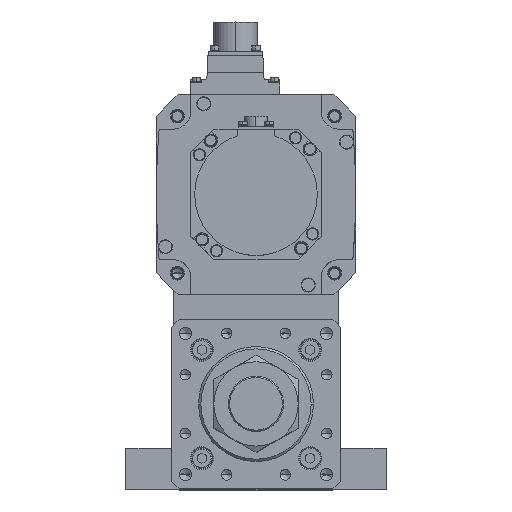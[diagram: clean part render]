
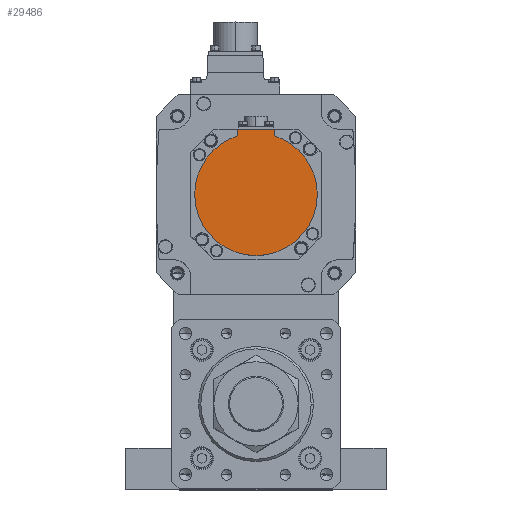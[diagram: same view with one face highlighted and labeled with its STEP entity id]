
A CAD part, top view. The second image highlights one B-rep face of the part: STEP entity #29486.
In plain terms, the highlighted planar face has unit normal (0, 0, 1) as drawn and (0, 0, -1) by its records, which use the part's own axes.
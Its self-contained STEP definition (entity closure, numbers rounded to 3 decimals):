
#117 = CARTESIAN_POINT ( 'NONE',  ( 0., 0., -132.5 ) ) ;
#239 = ORIENTED_EDGE ( 'NONE', *, *, #14979, .F. ) ;
#685 = DIRECTION ( 'NONE',  ( -1., 0., 0. ) ) ;
#1240 = LINE ( 'NONE', #1380, #28594 ) ;
#1380 = CARTESIAN_POINT ( 'NONE',  ( -12., -40.329, -132.5 ) ) ;
#1399 = AXIS2_PLACEMENT_3D ( 'NONE', #15248, #34341, #26289 ) ;
#4048 = CARTESIAN_POINT ( 'NONE',  ( -40., 0., -132.5 ) ) ;
#5975 = DIRECTION ( 'NONE',  ( 1., 0., 0. ) ) ;
#6479 = VECTOR ( 'NONE', #16695, 1000. ) ;
#8049 = EDGE_CURVE ( 'NONE', #21034, #12769, #12582, .T. ) ;
#8347 = LINE ( 'NONE', #22419, #31866 ) ;
#10593 = AXIS2_PLACEMENT_3D ( 'NONE', #18858, #13253, #21707 ) ;
#11252 = DIRECTION ( 'NONE',  ( 0., 0., 1. ) ) ;
#11285 = EDGE_CURVE ( 'NONE', #30338, #12769, #1240, .T. ) ;
#12094 = VERTEX_POINT ( 'NONE', #21631 ) ;
#12330 = FACE_OUTER_BOUND ( 'NONE', #27333, .T. ) ;
#12582 = CIRCLE ( 'NONE', #22506, 40. ) ;
#12769 = VERTEX_POINT ( 'NONE', #16681 ) ;
#13253 = DIRECTION ( 'NONE',  ( 0., 0., 1. ) ) ;
#13324 = AXIS2_PLACEMENT_3D ( 'NONE', #117, #29887, #13542 ) ;
#13542 = DIRECTION ( 'NONE',  ( 1., 0., 0. ) ) ;
#13660 = EDGE_CURVE ( 'NONE', #16560, #30338, #8347, .T. ) ;
#14979 = EDGE_CURVE ( 'NONE', #12094, #21034, #25227, .T. ) ;
#15248 = CARTESIAN_POINT ( 'NONE',  ( 0., -1.249, -132.5 ) ) ;
#16560 = VERTEX_POINT ( 'NONE', #34480 ) ;
#16681 = CARTESIAN_POINT ( 'NONE',  ( -12., -38.158, -132.5 ) ) ;
#16695 = DIRECTION ( 'NONE',  ( 0., 1., 0. ) ) ;
#16825 = CARTESIAN_POINT ( 'NONE',  ( 12., -38.158, -132.5 ) ) ;
#17003 = CIRCLE ( 'NONE', #10593, 40. ) ;
#18858 = CARTESIAN_POINT ( 'NONE',  ( 0., 0., -132.5 ) ) ;
#18910 = CARTESIAN_POINT ( 'NONE',  ( 0., 0., -132.5 ) ) ;
#21034 = VERTEX_POINT ( 'NONE', #4048 ) ;
#21631 = CARTESIAN_POINT ( 'NONE',  ( 40., 0., -132.5 ) ) ;
#21707 = DIRECTION ( 'NONE',  ( 1., 0., 0. ) ) ;
#21929 = CARTESIAN_POINT ( 'NONE',  ( -12., -42.5, -132.5 ) ) ;
#22173 = ORIENTED_EDGE ( 'NONE', *, *, #8049, .F. ) ;
#22419 = CARTESIAN_POINT ( 'NONE',  ( 0., -42.5, -132.5 ) ) ;
#22506 = AXIS2_PLACEMENT_3D ( 'NONE', #18910, #11252, #5975 ) ;
#23366 = ORIENTED_EDGE ( 'NONE', *, *, #11285, .T. ) ;
#25227 = CIRCLE ( 'NONE', #13324, 40. ) ;
#26072 = EDGE_CURVE ( 'NONE', #16560, #33254, #29977, .T. ) ;
#26289 = DIRECTION ( 'NONE',  ( 1., 0., 0. ) ) ;
#27333 = EDGE_LOOP ( 'NONE', ( #23366, #22173, #239, #30279, #27933, #34535 ) ) ;
#27933 = ORIENTED_EDGE ( 'NONE', *, *, #26072, .F. ) ;
#28594 = VECTOR ( 'NONE', #31254, 1000. ) ;
#28922 = PLANE ( 'NONE',  #1399 ) ;
#29486 = ADVANCED_FACE ( 'NONE', ( #12330 ), #28922, .F. ) ;
#29887 = DIRECTION ( 'NONE',  ( 0., 0., 1. ) ) ;
#29977 = LINE ( 'NONE', #30774, #6479 ) ;
#30222 = EDGE_CURVE ( 'NONE', #33254, #12094, #17003, .T. ) ;
#30279 = ORIENTED_EDGE ( 'NONE', *, *, #30222, .F. ) ;
#30338 = VERTEX_POINT ( 'NONE', #21929 ) ;
#30774 = CARTESIAN_POINT ( 'NONE',  ( 12., -1.249, -132.5 ) ) ;
#31254 = DIRECTION ( 'NONE',  ( 0., 1., 0. ) ) ;
#31866 = VECTOR ( 'NONE', #685, 1000. ) ;
#33254 = VERTEX_POINT ( 'NONE', #16825 ) ;
#34341 = DIRECTION ( 'NONE',  ( 0., 0., 1. ) ) ;
#34480 = CARTESIAN_POINT ( 'NONE',  ( 12., -42.5, -132.5 ) ) ;
#34535 = ORIENTED_EDGE ( 'NONE', *, *, #13660, .T. ) ;
